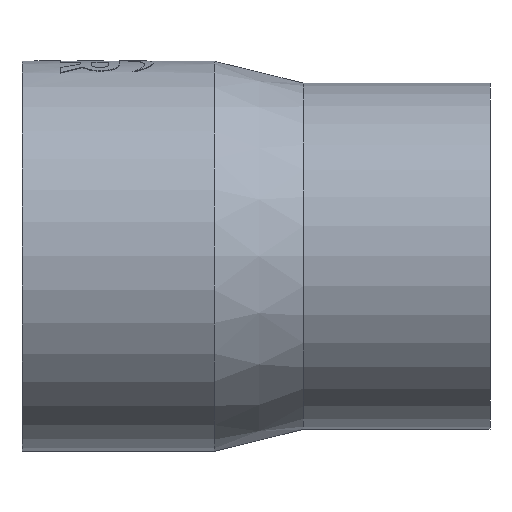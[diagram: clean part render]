
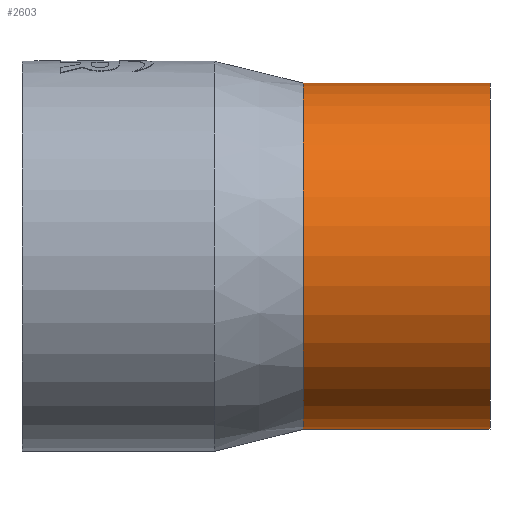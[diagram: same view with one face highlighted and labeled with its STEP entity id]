
A CAD part, front view. The second image highlights one B-rep face of the part: STEP entity #2603.
In plain terms, the highlighted cylindrical face has radius 157.5 mm (diameter 315 mm), a partial arc.
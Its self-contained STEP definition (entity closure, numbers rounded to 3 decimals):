
#124 = CIRCLE ( 'NONE', #355, 157.5 ) ;
#331 = LINE ( 'NONE', #1587, #3503 ) ;
#355 = AXIS2_PLACEMENT_3D ( 'NONE', #2978, #2967, #2958 ) ;
#396 = CARTESIAN_POINT ( 'NONE',  ( 256., 0., 157.5 ) ) ;
#653 = AXIS2_PLACEMENT_3D ( 'NONE', #2991, #2960, #2950 ) ;
#657 = CIRCLE ( 'NONE', #653, 157.5 ) ;
#700 = CARTESIAN_POINT ( 'NONE',  ( 426., 0., -157.5 ) ) ;
#773 = CYLINDRICAL_SURFACE ( 'NONE', #2010, 157.5 ) ;
#972 = CARTESIAN_POINT ( 'NONE',  ( 426., 0., 157.5 ) ) ;
#974 = DIRECTION ( 'NONE',  ( 0., 0., 1. ) ) ;
#1017 = VERTEX_POINT ( 'NONE', #972 ) ;
#1128 = ORIENTED_EDGE ( 'NONE', *, *, #1324, .F. ) ;
#1160 = DIRECTION ( 'NONE',  ( -1., 0., 0. ) ) ;
#1177 = ORIENTED_EDGE ( 'NONE', *, *, #3232, .T. ) ;
#1236 = CARTESIAN_POINT ( 'NONE',  ( -0.3, 0., 0. ) ) ;
#1271 = ORIENTED_EDGE ( 'NONE', *, *, #1366, .T. ) ;
#1317 = CARTESIAN_POINT ( 'NONE',  ( -0.3, 0., 157.5 ) ) ;
#1324 = EDGE_CURVE ( 'NONE', #2422, #3390, #331, .T. ) ;
#1366 = EDGE_CURVE ( 'NONE', #1017, #2870, #1937, .T. ) ;
#1423 = ORIENTED_EDGE ( 'NONE', *, *, #3665, .F. ) ;
#1587 = CARTESIAN_POINT ( 'NONE',  ( -0.3, 0., -157.5 ) ) ;
#1937 = LINE ( 'NONE', #1317, #2252 ) ;
#1969 = FACE_OUTER_BOUND ( 'NONE', #3675, .T. ) ;
#1978 = DIRECTION ( 'NONE',  ( -1., 0., 0. ) ) ;
#2010 = AXIS2_PLACEMENT_3D ( 'NONE', #1236, #1160, #974 ) ;
#2252 = VECTOR ( 'NONE', #1978, 1000. ) ;
#2356 = CARTESIAN_POINT ( 'NONE',  ( 256., 0., -157.5 ) ) ;
#2422 = VERTEX_POINT ( 'NONE', #700 ) ;
#2603 = ADVANCED_FACE ( 'NONE', ( #1969 ), #773, .T. ) ;
#2870 = VERTEX_POINT ( 'NONE', #396 ) ;
#2950 = DIRECTION ( 'NONE',  ( 0., 0., 1. ) ) ;
#2958 = DIRECTION ( 'NONE',  ( 0., 0., 1. ) ) ;
#2960 = DIRECTION ( 'NONE',  ( -1., 0., 0. ) ) ;
#2967 = DIRECTION ( 'NONE',  ( -1., 0., 0. ) ) ;
#2978 = CARTESIAN_POINT ( 'NONE',  ( 256., 0., 0. ) ) ;
#2991 = CARTESIAN_POINT ( 'NONE',  ( 426., 0., 0. ) ) ;
#3232 = EDGE_CURVE ( 'NONE', #2422, #1017, #657, .T. ) ;
#3350 = DIRECTION ( 'NONE',  ( -1., 0., 0. ) ) ;
#3390 = VERTEX_POINT ( 'NONE', #2356 ) ;
#3503 = VECTOR ( 'NONE', #3350, 1000. ) ;
#3665 = EDGE_CURVE ( 'NONE', #3390, #2870, #124, .T. ) ;
#3675 = EDGE_LOOP ( 'NONE', ( #1128, #1177, #1271, #1423 ) ) ;
